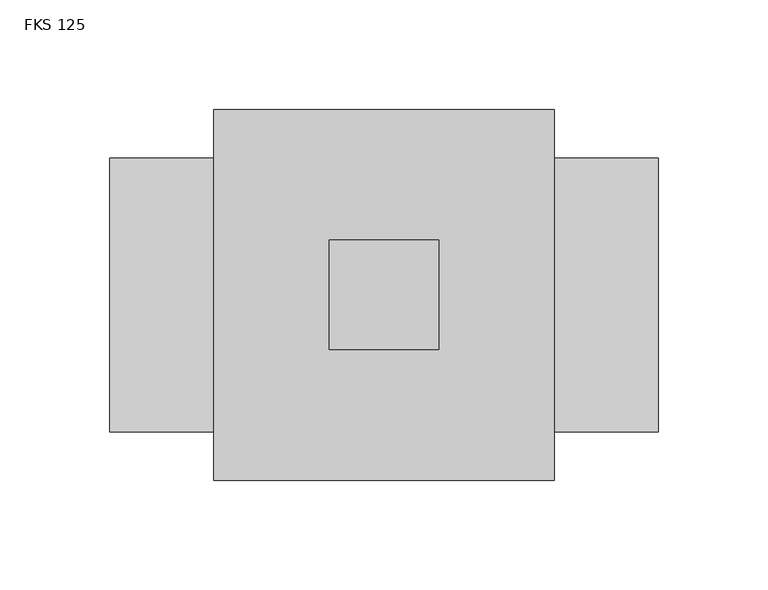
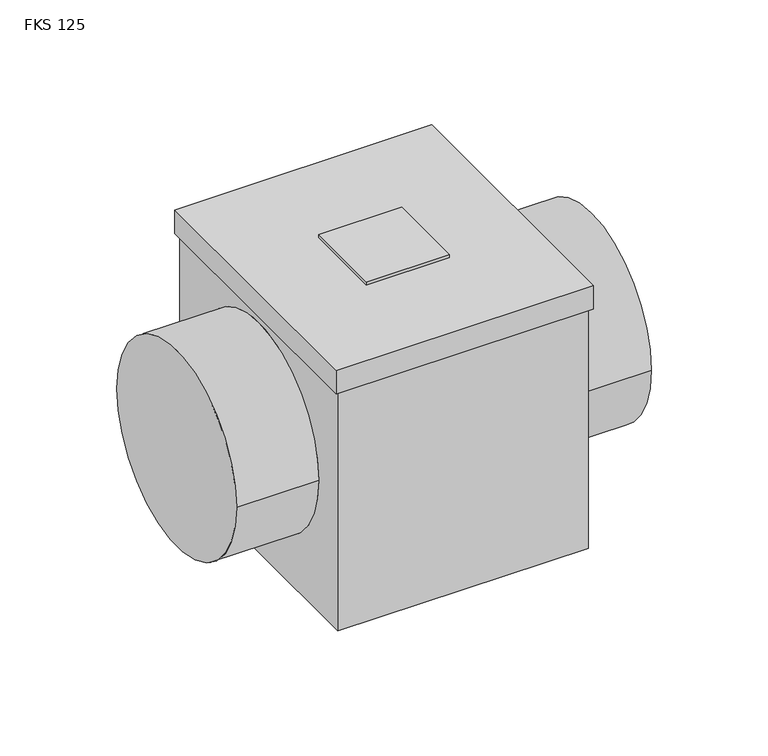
"""IFC4 building model written with IfcOpenShell, lengths in millimetres: damper geometry, KORF_Фильтр_Кассетный_Круглый_FKS : FKS 125."""

from ifc_helpers import new_model, si_unit, frame, origin, place, context, project, spatial, polyline, circle_curve, outline, extrude, source, transform, mapped, element, save
from ifc_brep_helpers import plane_surface, cylinder_surface, advanced_brep


def fks_125_277625ca(model_context):
    return source(origin(), model_context, "Body", "SolidModel", [
        extrude(outline(polyline([(150.0, 25.0), (150.0, -25.0), (100.0, -25.0), (100.0, 25.0), (150.0, 25.0)])), frame((0.0, 0.0, 84.0), z_axis=(0.0, 0.0, 1.0), x_axis=(1.0, 0.0, 0.0)), (0.0, 0.0, 1.0), 2.0),
        advanced_brep(
        [(250.0, -62.5, 0.0), (250.0, 62.5, 0.0), (0.0, -62.5, 0.0), (0.0, 62.5, 0.0), (200.5, -62.5, 0.0), (200.5, 62.5, 0.0), (49.5, 62.5, 0.0), (49.5, -62.5, 0.0), (200.5, -82.5, -84.0), (200.5, 82.5, -84.0), (200.5, 82.5, 69.0), (200.5, -82.5, 69.0), (49.5, 82.5, -84.0), (49.5, -82.5, -84.0), (49.5, -82.5, 69.0), (49.5, 82.5, 69.0), (202.5, 84.5, 84.0), (47.5, 84.5, 84.0), (47.5, -84.5, 84.0), (202.5, -84.5, 84.0), (202.5, 84.5, 69.0), (202.5, -84.5, 69.0), (47.5, -84.5, 69.0), (47.5, 84.5, 69.0)],
        [
            (0, 1, circle_curve(frame((250.0, 0.0, 0.0), z_axis=(1.0, 0.0, 0.0), x_axis=(0.0, 1.0, 0.0)), 62.5)),
            (1, 0, circle_curve(frame((250.0, 0.0, 0.0), z_axis=(1.0, 0.0, 0.0), x_axis=(0.0, 1.0, 0.0)), 62.5)),
            (2, 3, circle_curve(frame((0.0, 0.0, 0.0), z_axis=(-1.0, 0.0, 0.0), x_axis=(0.0, 1.0, 0.0)), 62.5)),
            (3, 2, circle_curve(frame((0.0, 0.0, 0.0), z_axis=(-1.0, 0.0, 0.0), x_axis=(0.0, 1.0, 0.0)), 62.5)),
            (0, 4),
            (4, 5, circle_curve(frame((200.5, 0.0, 0.0), z_axis=(1.0, 0.0, 0.0), x_axis=(0.0, 1.0, 0.0)), 62.5)),
            (5, 1),
            (3, 6),
            (6, 7, circle_curve(frame((49.5, 0.0, 0.0), z_axis=(-1.0, 0.0, 0.0), x_axis=(0.0, 1.0, 0.0)), 62.5)),
            (7, 2),
            (5, 4, circle_curve(frame((200.5, 0.0, 0.0), z_axis=(1.0, 0.0, 0.0), x_axis=(0.0, 1.0, 0.0)), 62.5)),
            (7, 6, circle_curve(frame((49.5, 0.0, 0.0), z_axis=(-1.0, 0.0, 0.0), x_axis=(0.0, 1.0, 0.0)), 62.5)),
            (8, 9),
            (9, 10),
            (10, 11),
            (11, 8),
            (12, 13),
            (13, 14),
            (14, 15),
            (15, 12),
            (13, 8),
            (11, 14),
            (12, 9),
            (15, 10),
            (16, 17),
            (17, 18),
            (18, 19),
            (19, 16),
            (20, 21),
            (21, 22),
            (22, 23),
            (23, 20),
            (16, 20),
            (23, 17),
            (22, 18),
            (21, 19),
        ],
        [
            plane_surface(frame((250.0, 62.5, 0.0), z_axis=(1.0, 0.0, 0.0), x_axis=(0.0, 0.0, 1.0))),
            plane_surface(frame((0.0, 62.5, 0.0), z_axis=(-1.0, 0.0, 0.0), x_axis=(0.0, 0.0, -1.0))),
            cylinder_surface(frame((0.0, 0.0, 0.0), z_axis=(1.0, 0.0, 0.0), x_axis=(0.0, 1.0, 0.0)), 62.5),
            plane_surface(frame((200.5, -82.5, 84.0), z_axis=(1.0, 0.0, 0.0), x_axis=(0.0, 0.0, -1.0))),
            plane_surface(frame((49.5, -82.5, 84.0), z_axis=(-1.0, 0.0, 0.0), x_axis=(0.0, 0.0, 1.0))),
            plane_surface(frame((200.5, -82.5, 84.0), z_axis=(0.0, -1.0, 0.0), x_axis=(-1.0, 0.0, 0.0))),
            plane_surface(frame((200.5, -82.5, -84.0), z_axis=(0.0, 0.0, -1.0), x_axis=(-1.0, 0.0, 0.0))),
            plane_surface(frame((200.5, 82.5, -84.0), z_axis=(0.0, 1.0, 0.0), x_axis=(-1.0, 0.0, 0.0))),
            plane_surface(frame((200.5, 82.5, 84.0), z_axis=(0.0, 0.0, 1.0), x_axis=(-1.0, 0.0, 0.0))),
            plane_surface(frame((47.5, 84.5, 69.0), z_axis=(0.0, 0.0, -1.0), x_axis=(1.0, 0.0, 0.0))),
            plane_surface(frame((202.5, 84.5, 84.0), z_axis=(0.0, 1.0, 0.0), x_axis=(0.0, 0.0, -1.0))),
            plane_surface(frame((47.5, 84.5, 84.0), z_axis=(-1.0, 0.0, 0.0), x_axis=(0.0, 0.0, -1.0))),
            plane_surface(frame((47.5, -84.5, 84.0), z_axis=(0.0, -1.0, 0.0), x_axis=(0.0, 0.0, -1.0))),
            plane_surface(frame((202.5, -84.5, 84.0), z_axis=(1.0, 0.0, 0.0), x_axis=(0.0, 0.0, -1.0))),
        ],
        [
            (0, [[1, 2]]),
            (1, [[3, 4]]),
            (2, [[-1, 5, 6, 7]]),
            (2, [[-4, 8, 9, 10]]),
            (2, [[-2, -7, 11, -5]]),
            (2, [[-3, -10, 12, -8]]),
            (3, [[13, 14, 15, 16], [-6, -11]]),
            (4, [[17, 18, 19, 20], [-9, -12]]),
            (5, [[21, -16, 22, -18]]),
            (6, [[-13, -21, -17, 23]]),
            (7, [[-23, -20, 24, -14]]),
            (8, [[25, 26, 27, 28]]),
            (9, [[29, 30, 31, 32], [-15, -24, -19, -22]]),
            (10, [[-25, 33, -32, 34]]),
            (11, [[-26, -34, -31, 35]]),
            (12, [[-27, -35, -30, 36]]),
            (13, [[-28, -36, -29, -33]]),
        ],
    ),
    ])


if __name__ == "__main__":
    model = new_model("IFC4")
    model_context = context("Model", 3, world=origin())
    ifc_project = project(units=[si_unit("LENGTHUNIT", "METRE", prefix="MILLI")], contexts=[model_context])
    site = spatial("IfcSite", under=ifc_project)
    building = spatial("IfcBuilding", under=site)
    placement = place(None, origin())
    fks_125_shape = fks_125_277625ca(model_context)
    element("IfcDamper", 1, ObjectType="KORF_Фильтр_Кассетный_Круглый_FKS : FKS 125", at=placement, inside=building, context=model_context, shape_type="MappedRepresentation", body=[
        mapped(fks_125_shape, transform((0.0, 0.0, 0.0), x_axis=(1.0, 0.0, 0.0), y_axis=(0.0, 1.0, 0.0), z_axis=(0.0, 0.0, 1.0))),
    ])
    save(model, "model.ifc")
